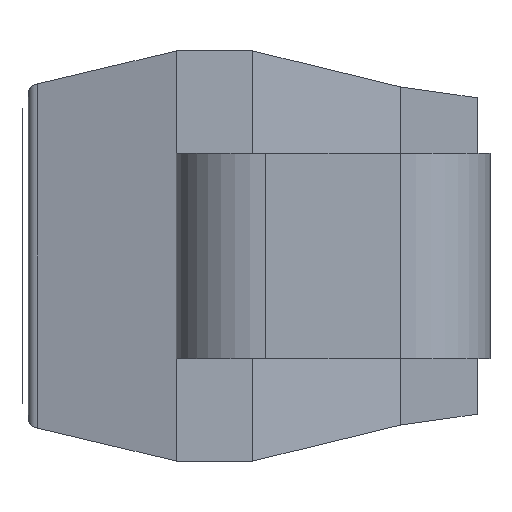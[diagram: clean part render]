
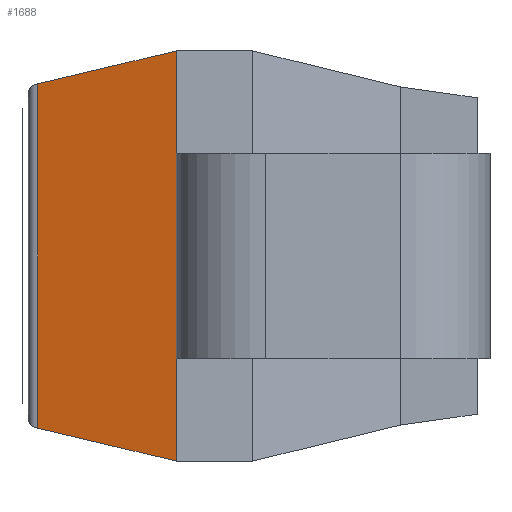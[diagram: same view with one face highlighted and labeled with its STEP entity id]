
A CAD part, left-side view. The second image highlights one B-rep face of the part: STEP entity #1688.
In plain terms, the highlighted planar face has unit normal (-0.99, 0.139, 0).
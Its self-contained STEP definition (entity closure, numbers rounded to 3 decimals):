
#1152 = CARTESIAN_POINT ( 'NONE',  ( -1.15, 1.225, -0.8 ) ) ;
#1154 = CARTESIAN_POINT ( 'NONE',  ( -1.15, 1.225, 0.8 ) ) ;
#1159 = CARTESIAN_POINT ( 'NONE',  ( -1.022, 1.764, -0.672 ) ) ;
#1161 = CARTESIAN_POINT ( 'NONE',  ( -1.022, 1.764, 0.672 ) ) ;
#1180 = VERTEX_POINT ( 'NONE', #1152 ) ;
#1182 = VERTEX_POINT ( 'NONE', #1154 ) ;
#1187 = VERTEX_POINT ( 'NONE', #1159 ) ;
#1189 = VERTEX_POINT ( 'NONE', #1161 ) ;
#1239 = CARTESIAN_POINT ( 'NONE',  ( -1.15, 1.225, 0.8 ) ) ;
#1240 = DIRECTION ( 'NONE',  ( 0., 0., -1. ) ) ;
#1241 = VECTOR ( 'NONE', #1240, 1000. ) ;
#1242 = LINE ( 'NONE', #1239, #1241 ) ;
#1267 = CARTESIAN_POINT ( 'NONE',  ( -0.971, 2.122, -0.621 ) ) ;
#1268 = DIRECTION ( 'NONE',  ( -0.138, -0.981, -0.138 ) ) ;
#1269 = VECTOR ( 'NONE', #1268, 1000. ) ;
#1270 = LINE ( 'NONE', #1267, #1269 ) ;
#1279 = CARTESIAN_POINT ( 'NONE',  ( -0.987, 2.007, 0.637 ) ) ;
#1280 = DIRECTION ( 'NONE',  ( -0.138, -0.981, 0.138 ) ) ;
#1281 = VECTOR ( 'NONE', #1280, 1000. ) ;
#1282 = LINE ( 'NONE', #1279, #1281 ) ;
#1283 = CARTESIAN_POINT ( 'NONE',  ( -1.022, 1.764, -0.66 ) ) ;
#1284 = DIRECTION ( 'NONE',  ( 0., 0., -1. ) ) ;
#1285 = VECTOR ( 'NONE', #1284, 1000. ) ;
#1286 = LINE ( 'NONE', #1283, #1285 ) ;
#1408 = EDGE_CURVE ( 'NONE', #1182, #1180, #1242, .T. ) ;
#1415 = EDGE_CURVE ( 'NONE', #1187, #1180, #1270, .T. ) ;
#1418 = EDGE_CURVE ( 'NONE', #1189, #1182, #1282, .T. ) ;
#1419 = EDGE_CURVE ( 'NONE', #1189, #1187, #1286, .T. ) ;
#1466 = ORIENTED_EDGE ( 'NONE', *, *, #1408, .F. ) ;
#1479 = ORIENTED_EDGE ( 'NONE', *, *, #1415, .T. ) ;
#1486 = ORIENTED_EDGE ( 'NONE', *, *, #1418, .F. ) ;
#1487 = ORIENTED_EDGE ( 'NONE', *, *, #1419, .T. ) ;
#1549 = EDGE_LOOP ( 'NONE', ( #1486, #1487, #1479, #1466 ) ) ;
#1571 = FACE_OUTER_BOUND ( 'NONE', #1549, .T. ) ;
#1611 = CARTESIAN_POINT ( 'NONE',  ( -1.01, 1.8, 0. ) ) ;
#1612 = DIRECTION ( 'NONE',  ( 0.99, -0.139, 0. ) ) ;
#1613 = DIRECTION ( 'NONE',  ( 0., 0., 1. ) ) ;
#1614 = AXIS2_PLACEMENT_3D ( 'NONE', #1611, #1612, #1613 ) ;
#1687 = PLANE ( 'NONE', #1614 ) ;
#1688 = ADVANCED_FACE ( 'NONE', ( #1571 ), #1687, .F. ) ;
